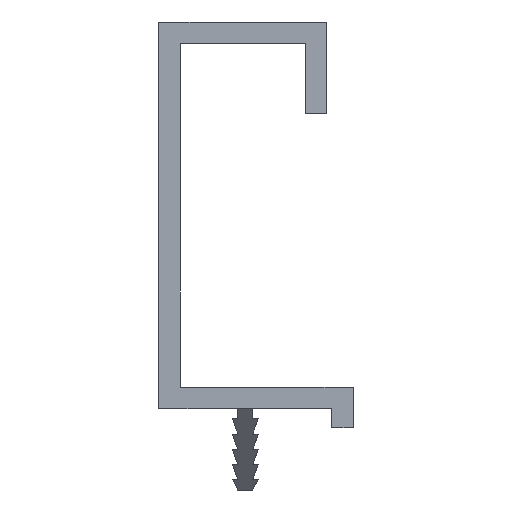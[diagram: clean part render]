
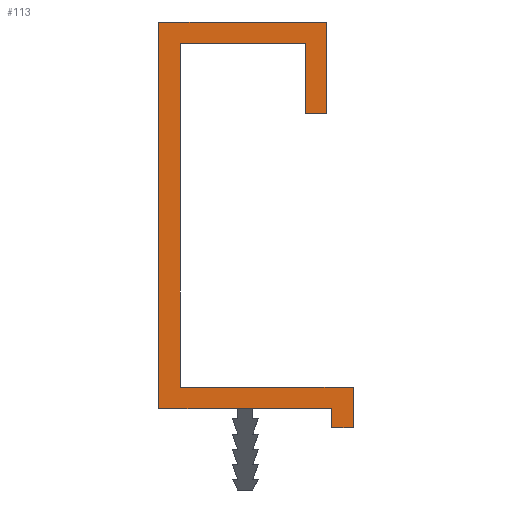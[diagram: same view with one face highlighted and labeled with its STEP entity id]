
A CAD part, left-side view. The second image highlights one B-rep face of the part: STEP entity #113.
In plain terms, the highlighted planar face has unit normal (-1, 0, 0).
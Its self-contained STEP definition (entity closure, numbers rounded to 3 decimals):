
#113 = ADVANCED_FACE( '', ( #192 ), #193, .F. );
#192 = FACE_OUTER_BOUND( '', #271, .T. );
#193 = PLANE( '', #272 );
#271 = EDGE_LOOP( '', ( #591, #592, #593, #594, #595, #596, #597, #598, #599, #600, #601, #602 ) );
#272 = AXIS2_PLACEMENT_3D( '', #603, #604, #605 );
#591 = ORIENTED_EDGE( '', *, *, #668, .F. );
#592 = ORIENTED_EDGE( '', *, *, #696, .F. );
#593 = ORIENTED_EDGE( '', *, *, #698, .F. );
#594 = ORIENTED_EDGE( '', *, *, #700, .F. );
#595 = ORIENTED_EDGE( '', *, *, #702, .F. );
#596 = ORIENTED_EDGE( '', *, *, #704, .F. );
#597 = ORIENTED_EDGE( '', *, *, #706, .F. );
#598 = ORIENTED_EDGE( '', *, *, #708, .F. );
#599 = ORIENTED_EDGE( '', *, *, #710, .F. );
#600 = ORIENTED_EDGE( '', *, *, #712, .F. );
#601 = ORIENTED_EDGE( '', *, *, #713, .F. );
#602 = ORIENTED_EDGE( '', *, *, #683, .F. );
#603 = CARTESIAN_POINT( '', ( 0., 0., 0. ) );
#604 = DIRECTION( '', ( 1., 0., 0. ) );
#605 = DIRECTION( '', ( 0., 0., -1. ) );
#668 = EDGE_CURVE( '', #824, #825, #826, .T. );
#683 = EDGE_CURVE( '', #825, #853, #854, .T. );
#696 = EDGE_CURVE( '', #866, #824, #868, .T. );
#698 = EDGE_CURVE( '', #869, #866, #871, .T. );
#700 = EDGE_CURVE( '', #872, #869, #874, .T. );
#702 = EDGE_CURVE( '', #875, #872, #877, .T. );
#704 = EDGE_CURVE( '', #878, #875, #880, .T. );
#706 = EDGE_CURVE( '', #881, #878, #883, .T. );
#708 = EDGE_CURVE( '', #884, #881, #886, .T. );
#710 = EDGE_CURVE( '', #887, #884, #889, .T. );
#712 = EDGE_CURVE( '', #890, #887, #892, .T. );
#713 = EDGE_CURVE( '', #853, #890, #893, .T. );
#824 = VERTEX_POINT( '', #1066 );
#825 = VERTEX_POINT( '', #1067 );
#826 = LINE( '', #1068, #1069 );
#853 = VERTEX_POINT( '', #1110 );
#854 = LINE( '', #1111, #1112 );
#866 = VERTEX_POINT( '', #1135 );
#868 = LINE( '', #1138, #1139 );
#869 = VERTEX_POINT( '', #1140 );
#871 = LINE( '', #1143, #1144 );
#872 = VERTEX_POINT( '', #1145 );
#874 = LINE( '', #1148, #1149 );
#875 = VERTEX_POINT( '', #1150 );
#877 = LINE( '', #1153, #1154 );
#878 = VERTEX_POINT( '', #1155 );
#880 = LINE( '', #1158, #1159 );
#881 = VERTEX_POINT( '', #1160 );
#883 = LINE( '', #1163, #1164 );
#884 = VERTEX_POINT( '', #1165 );
#886 = LINE( '', #1168, #1169 );
#887 = VERTEX_POINT( '', #1170 );
#889 = LINE( '', #1173, #1174 );
#890 = VERTEX_POINT( '', #1175 );
#892 = LINE( '', #1178, #1179 );
#893 = LINE( '', #1180, #1181 );
#1066 = CARTESIAN_POINT( '', ( 0., -8.5, 0. ) );
#1067 = CARTESIAN_POINT( '', ( 0., 8.5, 0. ) );
#1068 = CARTESIAN_POINT( '', ( 0., -8.5, 0. ) );
#1069 = VECTOR( '', #1244, 1. );
#1110 = CARTESIAN_POINT( '', ( 0., 8.5, 38. ) );
#1111 = CARTESIAN_POINT( '', ( 0., 8.5, 0. ) );
#1112 = VECTOR( '', #1259, 1. );
#1135 = CARTESIAN_POINT( '', ( 0., -8.5, -1.9 ) );
#1138 = CARTESIAN_POINT( '', ( 0., -8.5, -1.9 ) );
#1139 = VECTOR( '', #1272, 1. );
#1140 = CARTESIAN_POINT( '', ( 0., -10.6, -1.9 ) );
#1143 = CARTESIAN_POINT( '', ( 0., -10.6, -1.9 ) );
#1144 = VECTOR( '', #1274, 1. );
#1145 = CARTESIAN_POINT( '', ( 0., -10.6, 2.1 ) );
#1148 = CARTESIAN_POINT( '', ( 0., -10.6, 2.1 ) );
#1149 = VECTOR( '', #1276, 1. );
#1150 = CARTESIAN_POINT( '', ( 0., 6.4, 2.1 ) );
#1153 = CARTESIAN_POINT( '', ( 0., 6.4, 2.1 ) );
#1154 = VECTOR( '', #1278, 1. );
#1155 = CARTESIAN_POINT( '', ( 0., 6.4, 35.9 ) );
#1158 = CARTESIAN_POINT( '', ( 0., 6.4, 35.9 ) );
#1159 = VECTOR( '', #1280, 1. );
#1160 = CARTESIAN_POINT( '', ( 0., -5.9, 35.9 ) );
#1163 = CARTESIAN_POINT( '', ( 0., -5.9, 35.9 ) );
#1164 = VECTOR( '', #1282, 1. );
#1165 = CARTESIAN_POINT( '', ( 0., -5.9, 29. ) );
#1168 = CARTESIAN_POINT( '', ( 0., -5.9, 29. ) );
#1169 = VECTOR( '', #1284, 1. );
#1170 = CARTESIAN_POINT( '', ( 0., -8., 29. ) );
#1173 = CARTESIAN_POINT( '', ( 0., -8., 29. ) );
#1174 = VECTOR( '', #1286, 1. );
#1175 = CARTESIAN_POINT( '', ( 0., -8., 38. ) );
#1178 = CARTESIAN_POINT( '', ( 0., -8., 38. ) );
#1179 = VECTOR( '', #1288, 1. );
#1180 = CARTESIAN_POINT( '', ( 0., 8.5, 38. ) );
#1181 = VECTOR( '', #1289, 1. );
#1244 = DIRECTION( '', ( 0., 1., 0. ) );
#1259 = DIRECTION( '', ( 0., 0., 1. ) );
#1272 = DIRECTION( '', ( 0., 0., 1. ) );
#1274 = DIRECTION( '', ( 0., 1., 0. ) );
#1276 = DIRECTION( '', ( 0., 0., -1. ) );
#1278 = DIRECTION( '', ( 0., -1., 0. ) );
#1280 = DIRECTION( '', ( 0., 0., -1. ) );
#1282 = DIRECTION( '', ( 0., 1., 0. ) );
#1284 = DIRECTION( '', ( 0., 0., 1. ) );
#1286 = DIRECTION( '', ( 0., 1., 0. ) );
#1288 = DIRECTION( '', ( 0., 0., -1. ) );
#1289 = DIRECTION( '', ( 0., -1., 0. ) );
